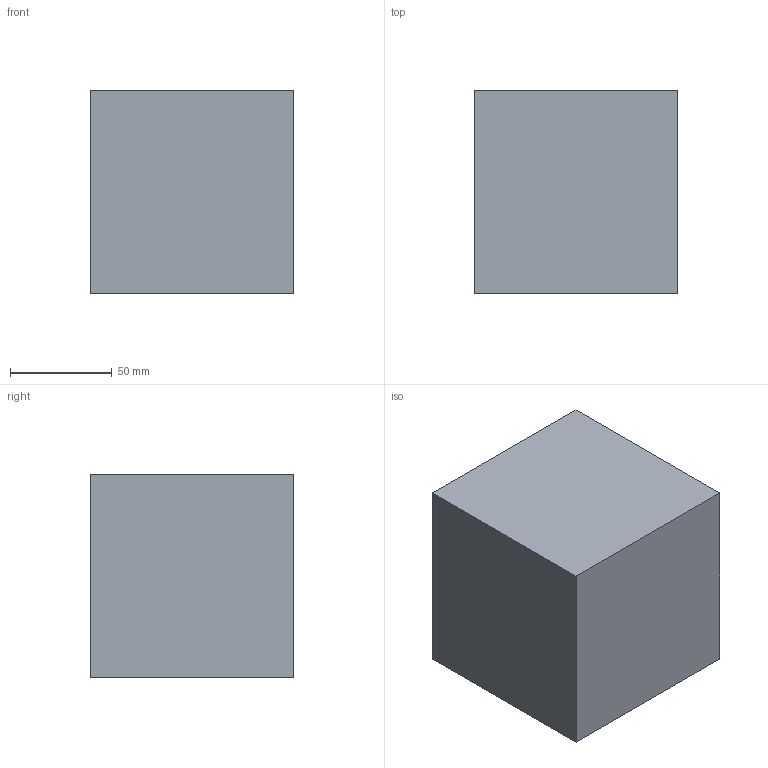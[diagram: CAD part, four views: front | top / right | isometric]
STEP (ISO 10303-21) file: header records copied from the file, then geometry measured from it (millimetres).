
FILE_DESCRIPTION (( 'STEP AP203' ), '1' );
FILE_NAME ('PLPEDRO10.STEP', '2025-06-20T07:24:04', ( '' ), ( '' ), 'SwSTEP 2.0', 'SolidWorks 2024', '' );
FILE_SCHEMA (( 'CONFIG_CONTROL_DESIGN' ));
Length unit declared in the file: millimetre
Products named in the file (1): PLPEDRO10
Bounding box: 100 x 100 x 100 mm (x, y, z)
Surface area: 87215.4 mm2 (no closed solid volume)
Topology: 0 solids, 2 shells, 31 faces, 70 edges, 46 vertices
Faces by surface type: plane 20, cylinder 4, sphere 4, cone 3
Entity records: 944 total; most frequent: DIRECTION 158, CARTESIAN_POINT 148, ORIENTED_EDGE 136, EDGE_CURVE 70, AXIS2_PLACEMENT_3D 56, LINE 46, VERTEX_POINT 46, VECTOR 46
